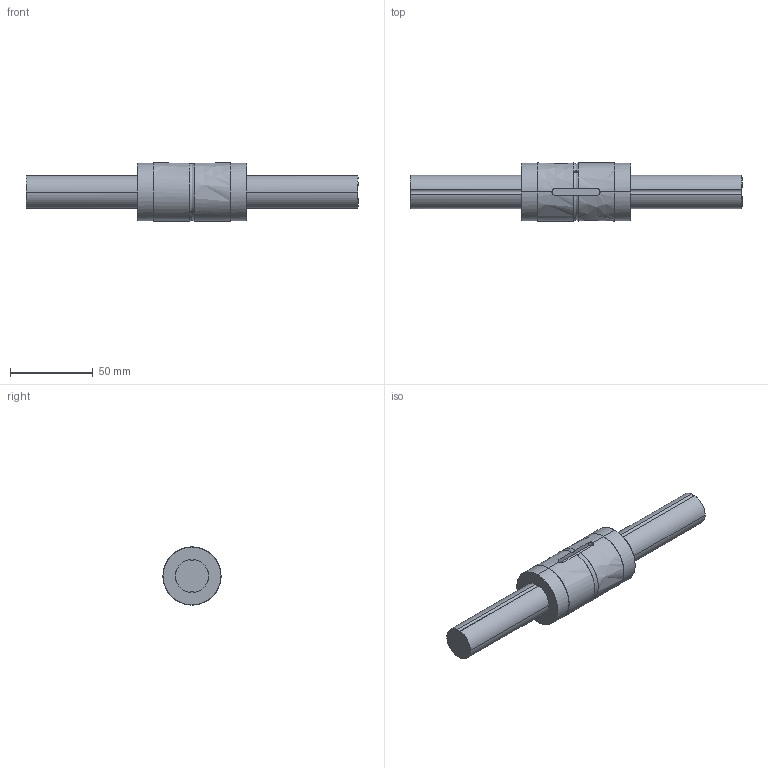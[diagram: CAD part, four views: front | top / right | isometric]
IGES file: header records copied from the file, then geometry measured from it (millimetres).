
Global section: file name: No Iges File Name specified; native system: AutoDesk Inventor R11.0; preprocessor: AutoDesk Inventor Iges Exporter R11.0; author: No Author specified; organization: No Organization specified; date: 20150223.132758; units: millimetre
Bounding box: 200 x 35 x 35 mm (x, y, z)
Surface area: 26288.2 mm2 (no closed solid volume)
Topology: 0 solids, 0 shells, 36 faces, 280 edges, 280 vertices
Faces by surface type: bspline 36
